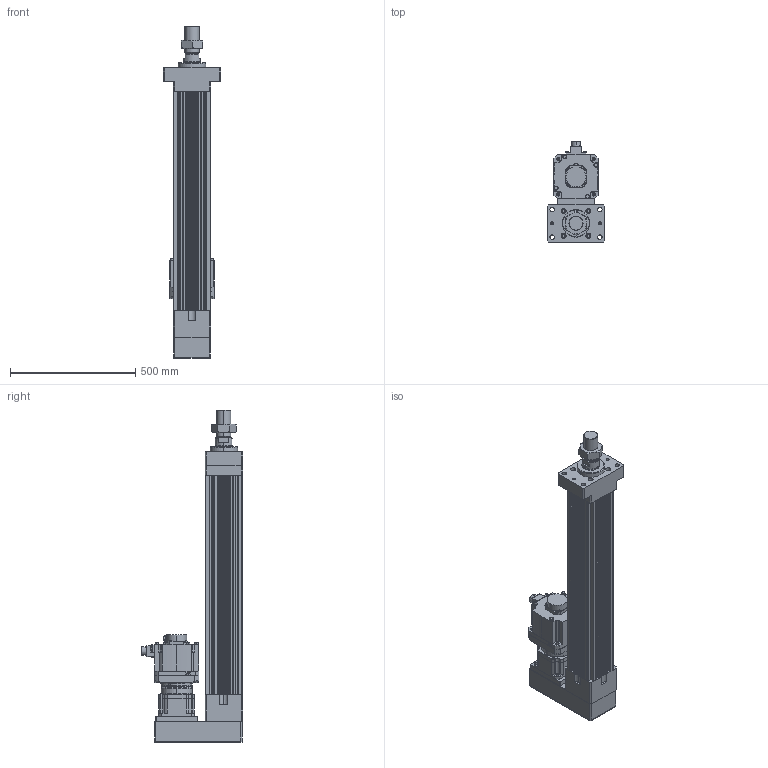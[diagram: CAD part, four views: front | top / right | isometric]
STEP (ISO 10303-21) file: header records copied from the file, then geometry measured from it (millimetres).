
FILE_DESCRIPTION (( 'STEP AP203' ), '1' );
FILE_NAME ('HES150NS(HS)-P600-W035G00-M-FMA.STEP', '2023-01-31T10:40:57', ( 'tms' ), ( '' ), 'SwSTEP 2.0', 'SolidWorks 2013', '' );
FILE_SCHEMA (( 'CONFIG_CONTROL_DESIGN' ));
Length unit declared in the file: millimetre
Products named in the file (9): AB142-003[HG-SR352]; HES150 ROD M ST600; M56X2.0P; P0403500801; P1301500001; HES150NS(HS)-P600-W035G00-M-FMA; HG-SR352; AB1421; HES150-P600-G142-FMA
Assembly tree (8 placements, depth 3):
  HES150NS(HS)-P600-W035G00-M-FMA
    HES150-P600-G142-FMA
    HES150 ROD M ST600
    M56X2.0P
    AB142-003[HG-SR352]
      AB1421
      P1301500001
      P0403500801
    HG-SR352
Bounding box: 230 x 403.85 x 1326 mm (x, y, z)
Volume: 21706706.6 mm3; surface area: 2179411.7 mm2
Topology: 4 solids, 18 shells, 1426 faces, 3722 edges, 2416 vertices
Faces by surface type: cylinder 669, plane 531, cone 144, bspline 76, torus 6
Entity records: 52806 total; most frequent: CARTESIAN_POINT 16363, DIRECTION 7620, ORIENTED_EDGE 7346, EDGE_CURVE 3695, AXIS2_PLACEMENT_3D 2898, VERTEX_POINT 2416, VECTOR 1824, LINE 1824
